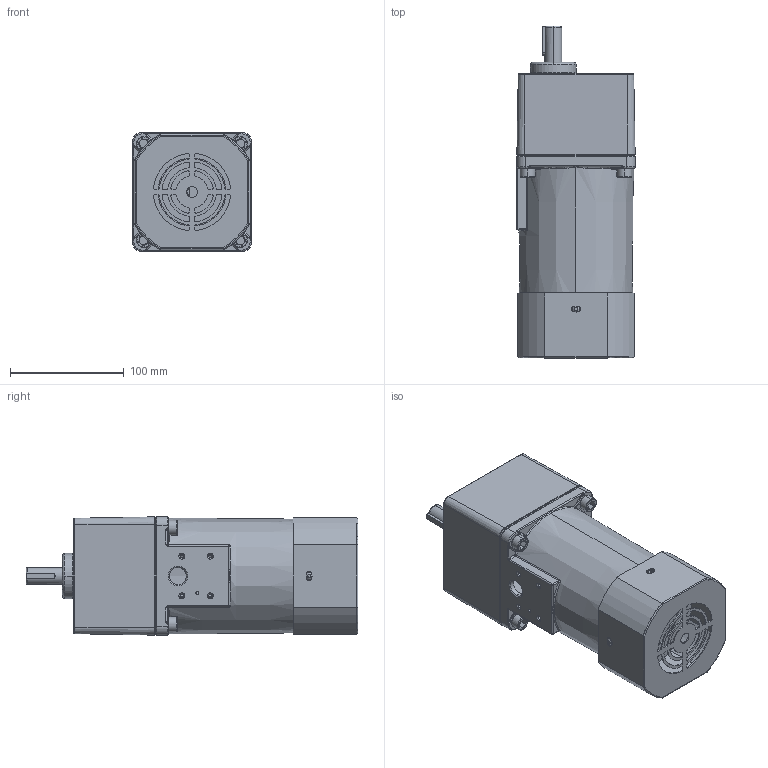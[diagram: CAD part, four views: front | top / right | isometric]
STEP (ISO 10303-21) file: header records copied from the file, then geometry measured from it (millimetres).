
FILE_DESCRIPTION (( 'STEP AP203' ), '1' );
FILE_NAME ('100YT200WG+100GF-H.STEP', '2021-02-20T00:56:37', ( '' ), ( '' ), 'SwSTEP 2.0', 'SolidWorks 2016', '' );
FILE_SCHEMA (( 'CONFIG_CONTROL_DESIGN' ));
Length unit declared in the file: millimetre
Products named in the file (3): 100YT; 100YT160WG+100GF-H; 100YT200WG+100GF-H
Assembly tree (2 placements, depth 2):
  100YT200WG+100GF-H
    100YT160WG+100GF-H
    100YT
Bounding box: 104 x 291.75 x 104 mm (x, y, z)
Volume: 600876.7 mm3; surface area: 260607.9 mm2
Topology: 13 solids, 13 shells, 1180 faces, 2982 edges, 1822 vertices
Faces by surface type: cylinder 446, plane 267, torus 172, bspline 111, cone 108, sphere 76
Entity records: 45620 total; most frequent: CARTESIAN_POINT 17390, DIRECTION 5930, ORIENTED_EDGE 5864, EDGE_CURVE 2932, AXIS2_PLACEMENT_3D 2446, VERTEX_POINT 1822, CIRCLE 1372, EDGE_LOOP 1302
